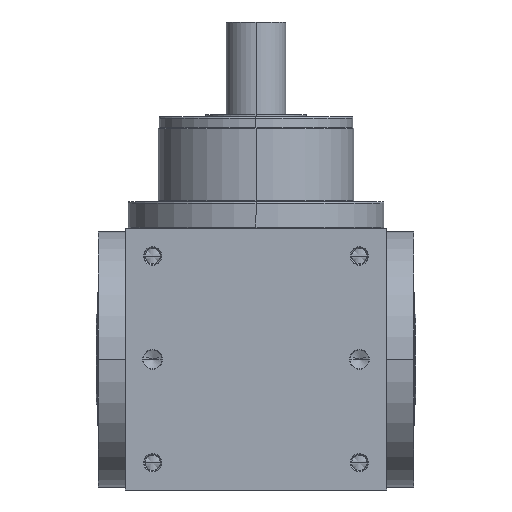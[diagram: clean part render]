
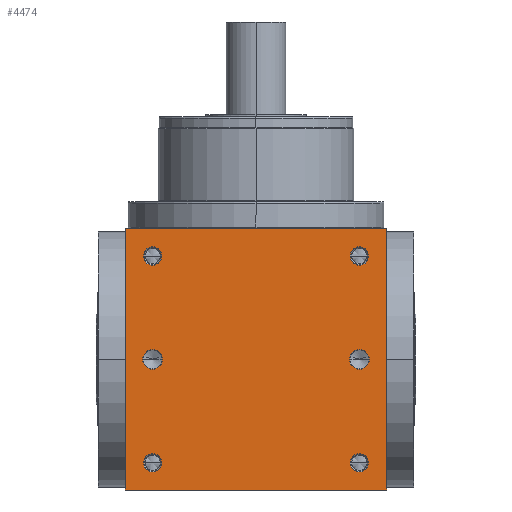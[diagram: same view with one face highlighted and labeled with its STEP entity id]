
A CAD part, front view. The second image highlights one B-rep face of the part: STEP entity #4474.
In plain terms, the highlighted planar face has unit normal (0, -1, 0).
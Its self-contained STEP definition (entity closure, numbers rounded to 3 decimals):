
#5=DIRECTION('',(1.,0.,0.));
#6=VECTOR('',#5,240.);
#7=CARTESIAN_POINT('',(-120.,-120.,-120.));
#8=LINE('',#7,#6);
#155=DIRECTION('',(0.,0.,1.));
#156=VECTOR('',#155,240.);
#157=CARTESIAN_POINT('',(120.,-120.,-120.));
#158=LINE('',#157,#156);
#209=DIRECTION('',(0.,0.,1.));
#210=VECTOR('',#209,240.);
#211=CARTESIAN_POINT('',(-120.,-120.,-120.));
#212=LINE('',#211,#210);
#213=CARTESIAN_POINT('',(95.,-120.,95.));
#214=DIRECTION('',(0.,1.,0.));
#215=DIRECTION('',(-1.,0.,0.));
#216=AXIS2_PLACEMENT_3D('',#213,#214,#215);
#218=CARTESIAN_POINT('',(95.,-120.,95.));
#219=DIRECTION('',(0.,1.,0.));
#220=DIRECTION('',(1.,0.,0.));
#221=AXIS2_PLACEMENT_3D('',#218,#219,#220);
#223=CARTESIAN_POINT('',(-95.,-120.,95.));
#224=DIRECTION('',(0.,1.,0.));
#225=DIRECTION('',(-1.,0.,0.));
#226=AXIS2_PLACEMENT_3D('',#223,#224,#225);
#228=CARTESIAN_POINT('',(-95.,-120.,95.));
#229=DIRECTION('',(0.,1.,0.));
#230=DIRECTION('',(1.,0.,0.));
#231=AXIS2_PLACEMENT_3D('',#228,#229,#230);
#233=CARTESIAN_POINT('',(95.,-120.,-95.));
#234=DIRECTION('',(0.,1.,0.));
#235=DIRECTION('',(-1.,0.,0.));
#236=AXIS2_PLACEMENT_3D('',#233,#234,#235);
#238=CARTESIAN_POINT('',(95.,-120.,-95.));
#239=DIRECTION('',(0.,1.,0.));
#240=DIRECTION('',(1.,0.,0.));
#241=AXIS2_PLACEMENT_3D('',#238,#239,#240);
#243=CARTESIAN_POINT('',(-95.,-120.,-95.));
#244=DIRECTION('',(0.,1.,0.));
#245=DIRECTION('',(-1.,0.,0.));
#246=AXIS2_PLACEMENT_3D('',#243,#244,#245);
#248=CARTESIAN_POINT('',(-95.,-120.,-95.));
#249=DIRECTION('',(0.,1.,0.));
#250=DIRECTION('',(1.,0.,0.));
#251=AXIS2_PLACEMENT_3D('',#248,#249,#250);
#253=CARTESIAN_POINT('',(-95.,-120.,0.));
#254=DIRECTION('',(0.,1.,0.));
#255=DIRECTION('',(1.,0.,0.));
#256=AXIS2_PLACEMENT_3D('',#253,#254,#255);
#258=CARTESIAN_POINT('',(-95.,-120.,0.));
#259=DIRECTION('',(0.,1.,0.));
#260=DIRECTION('',(-1.,0.,0.));
#261=AXIS2_PLACEMENT_3D('',#258,#259,#260);
#263=CARTESIAN_POINT('',(95.,-120.,0.));
#264=DIRECTION('',(0.,1.,0.));
#265=DIRECTION('',(1.,0.,0.));
#266=AXIS2_PLACEMENT_3D('',#263,#264,#265);
#268=CARTESIAN_POINT('',(95.,-120.,0.));
#269=DIRECTION('',(0.,1.,0.));
#270=DIRECTION('',(-1.,0.,0.));
#271=AXIS2_PLACEMENT_3D('',#268,#269,#270);
#285=DIRECTION('',(1.,0.,0.));
#286=VECTOR('',#285,240.);
#287=CARTESIAN_POINT('',(-120.,-120.,120.));
#288=LINE('',#287,#286);
#3600=CARTESIAN_POINT('',(-120.,-120.,-120.));
#3602=VERTEX_POINT('',#3600);
#3603=CARTESIAN_POINT('',(120.,-120.,-120.));
#3604=VERTEX_POINT('',#3603);
#3608=CARTESIAN_POINT('',(-120.,-120.,120.));
#3610=VERTEX_POINT('',#3608);
#3611=CARTESIAN_POINT('',(120.,-120.,120.));
#3612=VERTEX_POINT('',#3611);
#3767=CARTESIAN_POINT('',(86.6,-120.,95.));
#3768=CARTESIAN_POINT('',(103.4,-120.,95.));
#3769=VERTEX_POINT('',#3767);
#3770=VERTEX_POINT('',#3768);
#3775=CARTESIAN_POINT('',(-103.4,-120.,95.));
#3776=CARTESIAN_POINT('',(-86.6,-120.,95.));
#3777=VERTEX_POINT('',#3775);
#3778=VERTEX_POINT('',#3776);
#3783=CARTESIAN_POINT('',(86.6,-120.,-95.));
#3784=CARTESIAN_POINT('',(103.4,-120.,-95.));
#3785=VERTEX_POINT('',#3783);
#3786=VERTEX_POINT('',#3784);
#3791=CARTESIAN_POINT('',(-103.4,-120.,-95.));
#3792=CARTESIAN_POINT('',(-86.6,-120.,-95.));
#3793=VERTEX_POINT('',#3791);
#3794=VERTEX_POINT('',#3792);
#4115=CARTESIAN_POINT('',(-85.95,-120.,
0.));
#4116=CARTESIAN_POINT('',(-104.05,-120.,
0.));
#4117=VERTEX_POINT('',#4115);
#4118=VERTEX_POINT('',#4116);
#4123=CARTESIAN_POINT('',(104.05,-120.,0.));
#4124=CARTESIAN_POINT('',(85.95,-120.,0.));
#4125=VERTEX_POINT('',#4123);
#4126=VERTEX_POINT('',#4124);
#4426=CARTESIAN_POINT('',(-120.,-120.,-120.));
#4427=DIRECTION('',(0.,-1.,0.));
#4428=DIRECTION('',(1.,0.,0.));
#4429=AXIS2_PLACEMENT_3D('',#4426,#4427,#4428);
#4430=PLANE('',#4429);
#4431=ORIENTED_EDGE('',*,*,#4266,.F.);
#4432=ORIENTED_EDGE('',*,*,#4309,.T.);
#4434=ORIENTED_EDGE('',*,*,#4433,.T.);
#4435=ORIENTED_EDGE('',*,*,#4388,.F.);
#4436=EDGE_LOOP('',(#4431,#4432,#4434,#4435));
#4437=FACE_OUTER_BOUND('',#4436,.F.);
#4439=ORIENTED_EDGE('',*,*,#4438,.F.);
#4441=ORIENTED_EDGE('',*,*,#4440,.F.);
#4442=EDGE_LOOP('',(#4439,#4441));
#4443=FACE_BOUND('',#4442,.F.);
#4445=ORIENTED_EDGE('',*,*,#4444,.F.);
#4447=ORIENTED_EDGE('',*,*,#4446,.F.);
#4448=EDGE_LOOP('',(#4445,#4447));
#4449=FACE_BOUND('',#4448,.F.);
#4451=ORIENTED_EDGE('',*,*,#4450,.F.);
#4453=ORIENTED_EDGE('',*,*,#4452,.F.);
#4454=EDGE_LOOP('',(#4451,#4453));
#4455=FACE_BOUND('',#4454,.F.);
#4457=ORIENTED_EDGE('',*,*,#4456,.F.);
#4459=ORIENTED_EDGE('',*,*,#4458,.F.);
#4460=EDGE_LOOP('',(#4457,#4459));
#4461=FACE_BOUND('',#4460,.F.);
#4463=ORIENTED_EDGE('',*,*,#4462,.F.);
#4465=ORIENTED_EDGE('',*,*,#4464,.F.);
#4466=EDGE_LOOP('',(#4463,#4465));
#4467=FACE_BOUND('',#4466,.F.);
#4469=ORIENTED_EDGE('',*,*,#4468,.F.);
#4471=ORIENTED_EDGE('',*,*,#4470,.F.);
#4472=EDGE_LOOP('',(#4469,#4471));
#4473=FACE_BOUND('',#4472,.F.);
#4474=ADVANCED_FACE('',(#4437,#4443,#4449,#4455,#4461,#4467,#4473),#4430,.T.);
#217=CIRCLE('',#216,8.4);
#222=CIRCLE('',#221,8.4);
#227=CIRCLE('',#226,8.4);
#232=CIRCLE('',#231,8.4);
#237=CIRCLE('',#236,8.4);
#242=CIRCLE('',#241,8.4);
#247=CIRCLE('',#246,8.4);
#252=CIRCLE('',#251,8.4);
#257=CIRCLE('',#256,9.05);
#262=CIRCLE('',#261,9.05);
#267=CIRCLE('',#266,9.05);
#272=CIRCLE('',#271,9.05);
#4266=EDGE_CURVE('',#3602,#3604,#8,.T.);
#4309=EDGE_CURVE('',#3602,#3610,#212,.T.);
#4388=EDGE_CURVE('',#3604,#3612,#158,.T.);
#4433=EDGE_CURVE('',#3610,#3612,#288,.T.);
#4438=EDGE_CURVE('',#3769,#3770,#217,.T.);
#4440=EDGE_CURVE('',#3770,#3769,#222,.T.);
#4444=EDGE_CURVE('',#3777,#3778,#227,.T.);
#4446=EDGE_CURVE('',#3778,#3777,#232,.T.);
#4450=EDGE_CURVE('',#3785,#3786,#237,.T.);
#4452=EDGE_CURVE('',#3786,#3785,#242,.T.);
#4456=EDGE_CURVE('',#3793,#3794,#247,.T.);
#4458=EDGE_CURVE('',#3794,#3793,#252,.T.);
#4462=EDGE_CURVE('',#4117,#4118,#257,.T.);
#4464=EDGE_CURVE('',#4118,#4117,#262,.T.);
#4468=EDGE_CURVE('',#4125,#4126,#267,.T.);
#4470=EDGE_CURVE('',#4126,#4125,#272,.T.);
